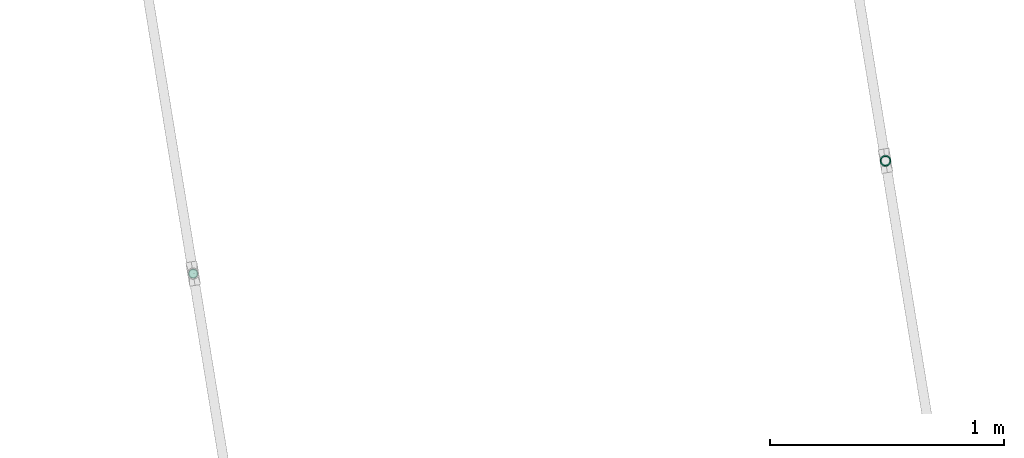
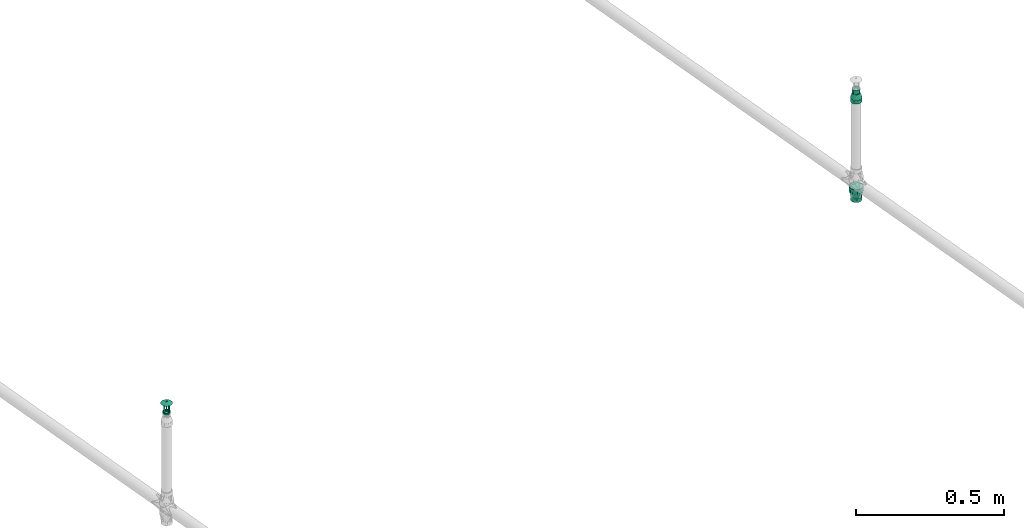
# One storey, part 41 of 56: 2 flow fittings, 1 flow terminal.
"""IFC2X3 building model written with IfcOpenShell, lengths in millimetres."""

import ifcopenshell
import ifcopenshell.guid

model = None  # the IFC model being written
_history = None  # IfcOwnerHistory: only IFC2X3 demands one
_inside = {}  # id of a spatial element -> (the spatial element, [elements in it])
_under = {}  # id of a project, library or spatial element -> (it, [spatial elements below it])
_declared = {}  # id of a project -> (the project, [libraries it declares])
_typed = {}  # id of a type object -> (the type object, [elements of that type])
_made_of = {}  # id of a material, layer set ... -> (it, [elements and type objects made of it])


def new_model(schema):
    """Start an empty IFC model of exactly this schema.

    Asked for "IFC4X3", IfcOpenShell would pick the latest addendum, in which some entities
    have other attributes; the version numbers below select the first issue.
    IFC2X3 requires an IfcOwnerHistory on every rooted entity: one is made here for all.
    """
    global model, _history
    if schema == "IFC4X3":
        model = ifcopenshell.file(schema_version=(4, 3, 0, 0))
    else:
        model = ifcopenshell.file(schema=schema)
    _inside.clear()
    _under.clear()
    _declared.clear()
    _typed.clear()
    _made_of.clear()
    _history = None
    if model.schema == "IFC2X3":
        org = make("IfcOrganization", Name="unknown")
        user = make(
            "IfcPersonAndOrganization",
            ThePerson=make("IfcPerson", FamilyName="unknown"),
            TheOrganization=org,
        )
        app = make(
            "IfcApplication",
            ApplicationDeveloper=org,
            Version="unknown",
            ApplicationFullName="unknown",
            ApplicationIdentifier="unknown",
        )
        _history = make(
            "IfcOwnerHistory",
            OwningUser=user,
            OwningApplication=app,
            ChangeAction="ADDED",
            CreationDate=0,
        )
    return model


def make(cls, **values):
    """One entity of the class cls with the attributes given. An attribute that is None is left unset."""
    return model.create_entity(
        cls, **{name: value for name, value in values.items() if value is not None}
    )


def entity(cls, *values):
    """Any entity or typed value of the class cls, its attributes in the order of the schema. None: left unset."""
    e = model.create_entity(cls)
    for i, value in enumerate(values):
        if value is not None:
            e[i] = value
    return e


def rooted(cls, **values):
    """An entity with a GlobalId (a new one), such as an element, a storey or a relation."""
    return make(cls, GlobalId=ifcopenshell.guid.new(), OwnerHistory=_history, **values)


def si_unit(unit_type, name, prefix=None):
    """IfcSIUnit, for example si_unit("LENGTHUNIT", "METRE", prefix="MILLI")."""
    return make("IfcSIUnit", UnitType=unit_type, Prefix=prefix, Name=name)


def converted_unit(unit_type, name, factor, base, dimensions=None, offset=None):
    """IfcConversionBasedUnit, such as the inch: factor (a typed value) times the base unit."""
    return make(
        "IfcConversionBasedUnit"
        if offset is None
        else "IfcConversionBasedUnitWithOffset",
        ConversionOffset=offset,
        Dimensions=None
        if dimensions is None
        else entity("IfcDimensionalExponents", *dimensions),
        UnitType=unit_type,
        Name=name,
        ConversionFactor=make(
            "IfcMeasureWithUnit", ValueComponent=factor, UnitComponent=base
        ),
    )


def derived_unit(unit_type, elements):
    """IfcDerivedUnit: a product of units, each with its exponent."""
    return make(
        "IfcDerivedUnit",
        Elements=[
            make("IfcDerivedUnitElement", Unit=unit, Exponent=power)
            for unit, power in elements
        ],
        UnitType=unit_type,
    )


def assignment(units):
    """IfcUnitAssignment: the units of a project."""
    return None if units is None else make("IfcUnitAssignment", Units=units)


def point(xyz):
    """IfcCartesianPoint."""
    return None if xyz is None else make("IfcCartesianPoint", Coordinates=xyz)


def direction(xyz):
    """IfcDirection."""
    return None if xyz is None else make("IfcDirection", DirectionRatios=xyz)


def frame(location, z_axis=None, x_axis=None):
    """IfcAxis2Placement3D, a coordinate frame: its origin and axes. An axis left out is left unset."""
    return make(
        "IfcAxis2Placement3D",
        Location=point(location),
        Axis=direction(z_axis),
        RefDirection=direction(x_axis),
    )


def origin():
    """The frame at (0, 0, 0) with its axes left unset."""
    return frame((0.0, 0.0, 0.0))


def origin_with_axes():
    """The frame at (0, 0, 0) with the z axis (0, 0, 1) and the x axis (1, 0, 0) written out."""
    return frame((0.0, 0.0, 0.0), z_axis=(0.0, 0.0, 1.0), x_axis=(1.0, 0.0, 0.0))


def place(relative_to, where):
    """IfcLocalPlacement: puts the frame where relative to a parent placement (None: the world)."""
    return make(
        "IfcLocalPlacement", PlacementRelTo=relative_to, RelativePlacement=where
    )


def context(
    kind, dimensions, precision=None, world=None, true_north=None, identifier=None
):
    """IfcGeometricRepresentationContext, for example the 3D "Model" context."""
    return make(
        "IfcGeometricRepresentationContext",
        ContextIdentifier=identifier,
        ContextType=kind,
        CoordinateSpaceDimension=dimensions,
        Precision=precision,
        WorldCoordinateSystem=world,
        TrueNorth=true_north,
    )


def subcontext(parent, identifier, kind, view, scale=None):
    """IfcGeometricRepresentationSubContext, for example "Body" below "Model"."""
    return make(
        "IfcGeometricRepresentationSubContext",
        ContextIdentifier=identifier,
        ContextType=kind,
        ParentContext=parent,
        TargetScale=scale,
        TargetView=view,
    )


def project(units=None, contexts=None):
    """IfcProject with its units and contexts."""
    return rooted(
        "IfcProject",
        Name="project",
        RepresentationContexts=contexts,
        UnitsInContext=assignment(units),
    )


def spatial(cls, under=None, at=None, **own):
    """A site, building, storey or space (cls), placed at a placement, below another one or the project."""
    s = rooted(cls, ObjectPlacement=at, **own)
    if under is not None:
        _under.setdefault(under.id(), (under, []))[1].append(s)
    return s


def faces_of(points, faces, orient=None, outer=None):
    """IfcFace entities. A face is a list of loops; a loop is a list of indices into points, from 0.

    orient and outer hold one flag for each loop. By default every Orientation is true, the
    first loop of a face is its IfcFaceOuterBound and the others are IfcFaceBound.
    """
    made = []
    for i, loops in enumerate(faces):
        bounds = []
        for j, loop in enumerate(loops):
            is_outer = j == 0 if outer is None else outer[i][j]
            bounds.append(
                make(
                    "IfcFaceOuterBound" if is_outer else "IfcFaceBound",
                    Bound=make("IfcPolyLoop", Polygon=[points[k] for k in loop]),
                    Orientation=True if orient is None else orient[i][j],
                )
            )
        made.append(make("IfcFace", Bounds=bounds))
    return made


def faceted_brep(points, faces, orient=None, outer=None, voids=None):
    """IfcFacetedBrep: a solid bounded by flat faces; with voids (closed shells), ...WithVoids."""
    shared = [point(p) for p in points]
    hull = make("IfcClosedShell", CfsFaces=faces_of(shared, faces, orient, outer))
    if voids is None:
        return make("IfcFacetedBrep", Outer=hull)
    return make(
        "IfcFacetedBrepWithVoids",
        Outer=hull,
        Voids=[
            make(cls, CfsFaces=faces_of(shared, fs, o, b)) for cls, fs, o, b in voids
        ],
    )


def shape(context_of_items, identifier, shape_type, items):
    """IfcShapeRepresentation: the items that make up one representation, for example the "Body"."""
    return make(
        "IfcShapeRepresentation",
        ContextOfItems=context_of_items,
        RepresentationIdentifier=identifier,
        RepresentationType=shape_type,
        Items=items,
    )


def source(mapping_origin, context_of_items, identifier, shape_type, items):
    """IfcRepresentationMap: a shape defined once, which mapped items show again and again."""
    return make(
        "IfcRepresentationMap",
        MappingOrigin=mapping_origin,
        MappedRepresentation=shape(context_of_items, identifier, shape_type, items),
    )


def transform(
    local_origin,
    x_axis=None,
    y_axis=None,
    z_axis=None,
    scale=None,
    scale2=None,
    scale3=None,
    uniform=True,
):
    """IfcCartesianTransformationOperator3D, or its non-uniform kind. x_axis, y_axis, z_axis: its Axis1, 2, 3."""
    if uniform:
        return make(
            "IfcCartesianTransformationOperator3D",
            Axis1=direction(x_axis),
            Axis2=direction(y_axis),
            LocalOrigin=point(local_origin),
            Scale=scale,
            Axis3=direction(z_axis),
        )
    return make(
        "IfcCartesianTransformationOperator3DnonUniform",
        Axis1=direction(x_axis),
        Axis2=direction(y_axis),
        LocalOrigin=point(local_origin),
        Scale=scale,
        Axis3=direction(z_axis),
        Scale2=scale2,
        Scale3=scale3,
    )


def mapped(mapping_source, mapping_target):
    """IfcMappedItem: shows the shape of a source again, moved by a transform."""
    return make(
        "IfcMappedItem", MappingSource=mapping_source, MappingTarget=mapping_target
    )


def material(Name=None, Category=None):
    """IfcMaterial."""
    return make("IfcMaterial", Name=Name, Category=Category)


def made_of(thing, what):
    """Note that an element or type object is made of a material, layer set ...; save() writes the relation."""
    if what is not None:
        _made_of.setdefault(what.id(), (what, []))[1].append(thing)
    return thing


def type_object(cls, material=None, **own):
    """A type object (cls), such as IfcWallType, which elements share."""
    return made_of(rooted(cls, **own), material)


def element(
    cls,
    number,
    at=None,
    inside=None,
    cuts=None,
    type_object=None,
    material=None,
    context=None,
    identifier="Body",
    shape_type=None,
    held_by="IfcProductDefinitionShape",
    body=None,
    shapes=None,
    **own,
):
    """One element of the class cls, such as IfcWall. Its Tag is "e" and its number.

    at: its placement. inside: the storey or other place that contains it. cuts: it is an
    opening in that element (IfcRelVoidsElement). A single representation is given by context,
    identifier, shape_type and body (its items); several are given by shapes. held_by: the class
    of the entity that holds the representations. save() writes the other relations.
    """
    e = rooted(cls, Tag="e%d" % number, ObjectPlacement=at, **own)
    if body is not None:
        shapes = [shape(context, identifier, shape_type, body)]
    if shapes is not None:
        e.Representation = make(held_by, Representations=shapes)
    if inside is not None:
        _inside.setdefault(inside.id(), (inside, []))[1].append(e)
    if cuts is not None:
        rooted(
            "IfcRelVoidsElement", RelatingBuildingElement=cuts, RelatedOpeningElement=e
        )
    if type_object is not None:
        _typed.setdefault(type_object.id(), (type_object, []))[1].append(e)
    return made_of(e, material)


def aggregate(whole, parts):
    """IfcRelAggregates: a whole, such as a stair, and the parts it consists of."""
    return rooted("IfcRelAggregates", RelatingObject=whole, RelatedObjects=parts)


def save(model, path):
    """Write the relations noted so far, then the file.

    IfcRelAggregates (storeys below a building ...), IfcRelContainedInSpatialStructure (elements
    in a storey), IfcRelDefinesByType, IfcRelAssociatesMaterial and IfcRelDeclares: one each for
    every whole, place, type object, material and project.
    """
    for whole, parts in _under.values():
        aggregate(whole, parts)
    for where, things in _inside.values():
        rooted(
            "IfcRelContainedInSpatialStructure",
            RelatedElements=things,
            RelatingStructure=where,
        )
    for kind, things in _typed.values():
        rooted("IfcRelDefinesByType", RelatedObjects=things, RelatingType=kind)
    for what, things in _made_of.values():
        rooted("IfcRelAssociatesMaterial", RelatedObjects=things, RelatingMaterial=what)
    for by, libraries in _declared.values():
        rooted("IfcRelDeclares", RelatingContext=by, RelatedDefinitions=libraries)
    model.write(path)


model = new_model("IFC2X3")

# Units and contexts
model_context = context("Model", 3, precision=0.01, world=origin(), true_north=direction((6.12323399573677e-17, 1.0)))
plan_context = context("Plan", 3, precision=1e-05, world=origin_with_axes())
body_context = subcontext(model_context, "Body", "Model", "MODEL_VIEW")
ifc_project = project(units=[converted_unit("PLANEANGLEUNIT", "DEGREE", entity("IfcPositiveLengthMeasure", 0.0174532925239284), si_unit("PLANEANGLEUNIT", "RADIAN"), dimensions=[0, 0, 0, 0, 0, 0, 0]), si_unit("AREAUNIT", "SQUARE_METRE"), si_unit("LENGTHUNIT", "METRE", prefix="MILLI"), si_unit("MASSUNIT", "GRAM", prefix="KILO"), si_unit("POWERUNIT", "WATT"), si_unit("PRESSUREUNIT", "PASCAL", prefix="KILO"), si_unit("FORCEUNIT", "NEWTON", prefix="KILO"), si_unit("ELECTRICVOLTAGEUNIT", "VOLT"), si_unit("ELECTRICCURRENTUNIT", "AMPERE"), si_unit("THERMODYNAMICTEMPERATUREUNIT", "DEGREE_CELSIUS"), si_unit("TIMEUNIT", "SECOND"), si_unit("VOLUMEUNIT", "CUBIC_METRE"), derived_unit("LINEARVELOCITYUNIT", [(si_unit("LENGTHUNIT", "METRE"), 1), (si_unit("TIMEUNIT", "SECOND"), -1)]), derived_unit("VOLUMETRICFLOWRATEUNIT", [(si_unit("VOLUMEUNIT", "CUBIC_METRE"), 1), (si_unit("TIMEUNIT", "SECOND"), -1)]), derived_unit("THERMALTRANSMITTANCEUNIT", [(si_unit("POWERUNIT", "WATT"), 1), (si_unit("THERMODYNAMICTEMPERATUREUNIT", "KELVIN"), -1), (si_unit("AREAUNIT", "SQUARE_METRE"), -1)]), derived_unit("SOUNDPRESSUREUNIT", [(si_unit("PRESSUREUNIT", "PASCAL"), 1)])], contexts=[model_context, plan_context])

# Site, building, storey
site_placement = place(None, frame((-3.09682673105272e-06, 1.93776733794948e-05, 0.0), z_axis=(0.0, 0.0, 1.0), x_axis=(-0.160806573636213, 0.986985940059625, 0.0)))
site = spatial("IfcSite", under=ifc_project, at=site_placement, Name="Default", CompositionType="ELEMENT")
building_placement = place(site_placement, frame((0.0, 0.0, 0.0), z_axis=(0.0, 0.0, 1.0), x_axis=(1.0, -2.77555756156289e-17, 0.0)))
building = spatial("IfcBuilding", under=site, at=building_placement, Name="Bygning (endres i Project Information)", CompositionType="ELEMENT")
storey_placement = place(building_placement, frame((0.0, 0.0, 51360.0000000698), z_axis=(0.0, 0.0, 1.0), x_axis=(1.0, -2.77555756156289e-17, 0.0)))
storey = spatial("IfcBuildingStorey", under=building, at=storey_placement, Name="H01-Nivå D+0,36", CompositionType="ELEMENT", Elevation=51360.0000000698)

# Flow fittings
ifc_material = material(Name="3320.001")
pipe_fitting_type_1 = type_object("IfcPipeFittingType", Name="RS_53_PIF_UN_Reducing-Socket-EN10241_MC_gen:RS_53_PIF_UN_Reducing-Socket-EN10241_MC_gen", PredefinedType="NOTDEFINED", material=ifc_material)
shared_shape_1 = source(origin(), body_context, "Body", "Brep", [
    faceted_brep([(0.0, 5.11167614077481, 19.0770350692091), (0.0, 9.87500000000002, 17.1040017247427), (0.0, 13.9653589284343, 13.9653589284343), (0.0, 17.1040017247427, 9.87499999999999), (0.0, 19.0770350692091, 5.11167614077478), (0.0, 19.75, 0.0), (0.0, 19.0770350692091, -5.1116761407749), (0.0, 17.1040017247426, -9.8750000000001), (0.0, 13.9653589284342, -13.9653589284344), (0.0, 9.87499999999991, -17.1040017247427), (0.0, 5.11167614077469, -19.0770350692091), (0.0, 0.0, -19.75), (0.0, -5.11167614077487, -19.0770350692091), (0.0, -9.87500000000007, -17.1040017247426), (0.0, -13.9653589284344, -13.9653589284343), (0.0, -17.1040017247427, -9.87499999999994), (0.0, -19.0770350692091, -5.11167614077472), (0.0, -19.75, 0.0), (0.0, -19.0770350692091, 5.11167614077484), (0.0, -17.1040017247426, 9.87500000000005), (0.0, -13.9653589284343, 13.9653589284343), (0.0, -9.87499999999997, 17.1040017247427), (0.0, -5.11167614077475, 19.0770350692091), (0.0, 0.0, 19.75), (17.0, -6.65118285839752, -18.277344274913), (17.0, -15.1289479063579, -12.6955675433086), (17.0, -16.8438814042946, -9.72538978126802), (17.0, -18.5588149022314, -6.7552120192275), (17.0, -9.87413131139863, -17.1045032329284), (17.0, -12.5015396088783, -14.9000353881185), (17.0, -19.1544074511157, -3.37760600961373), (17.0, -3.42823440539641, -19.4501853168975), (17.0, 3.43119786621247, -19.4496627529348), (17.0, 0.0014817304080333, -19.4499240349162), (17.0, -19.75, 0.0), (17.0, 6.65396758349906, -18.2763306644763), (17.0, 9.87673730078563, -17.1029985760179), (17.0, 18.5598439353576, -6.75238425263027), (17.0, 16.8453630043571, -9.7228232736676), (17.0, 15.1308820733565, -12.6932622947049), (17.0, 12.5038096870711, -14.8981304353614), (17.0, 19.75, 0.0), (17.0, 15.1308820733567, 12.6932622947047), (17.0, 16.8453630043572, 9.72282327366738), (17.0, 18.5598439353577, 6.75238425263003), (17.0, 9.87673730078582, 17.1029985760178), (17.0, 12.5038096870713, 14.8981304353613), (17.0, 3.43119786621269, 19.4496627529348), (17.0, 6.65396758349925, 18.2763306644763), (17.0, -3.4282344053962, 19.4501853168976), (17.0, 0.00148173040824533, 19.4499240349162), (17.0, -15.1289479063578, 12.6955675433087), (17.0, -6.65118285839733, 18.277344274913), (17.0, -9.87413131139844, 17.1045032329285), (17.0, -12.5015396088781, 14.9000353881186), (17.0, -19.1544074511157, 3.37760600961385), (17.0, -18.5588149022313, 6.75521201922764), (17.0, -16.8438814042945, 9.72538978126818), (34.0, 13.5000000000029, 0.0), (34.0, 12.6868795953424, -4.61444320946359), (34.0, -4.54589529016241, -12.4935366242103), (34.0, -2.34276817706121, -13.2951659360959), (34.0, 6.75195505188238, -11.6902139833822), (34.0, 0.00166747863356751, -13.2948718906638), (34.0, 2.34610313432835, -13.2945778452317), (34.0, 10.3432928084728, -8.67561489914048), (34.0, 8.54762393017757, -10.1829144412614), (34.0, 4.54902909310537, -12.492395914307), (34.0, 11.5150862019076, -6.64502905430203), (34.0, -6.74902240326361, -11.6919073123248), (34.0, -13.4999999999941, 0.0), (34.0, -13.0928608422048, -2.30881275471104), (34.0, -10.3411162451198, -8.6782091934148), (34.0, -8.54506932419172, -10.1850582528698), (34.0, -12.6857216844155, -4.61762550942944), (34.0, -11.5134189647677, -6.64791735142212), (34.0, -13.0928608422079, 2.30881275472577), (34.0, -12.6857216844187, 4.6176255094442), (34.0, 2.34610313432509, 13.2945778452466), (34.0, 4.54902909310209, 12.4923959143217), (34.0, -10.3411162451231, 8.67820919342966), (34.0, 0.00166747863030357, 13.2948718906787), (34.0, -6.74902240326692, 11.6919073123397), (34.0, -8.54506932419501, 10.1850582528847), (34.0, -11.5134189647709, 6.64791735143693), (34.0, -2.34276817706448, 13.2951659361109), (34.0, -4.5458952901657, 12.4935366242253), (34.0, 12.6868795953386, 4.61444320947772), (34.0, 11.5150862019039, 6.64502905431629), (34.0, 10.3432928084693, 8.67561489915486), (34.0, 6.7519550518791, 11.6902139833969), (34.0, 8.54762393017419, 10.1829144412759), (51.0, 3.49405710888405, -13.0399986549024), (51.0, 6.75000000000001, -11.6913429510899), (51.0, 9.5459415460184, -9.54594154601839), (51.0, 11.6913429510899, -6.74999999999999), (51.0, 13.0399986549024, -3.49405710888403), (51.0, 13.5, 0.0), (51.0, 13.0399986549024, 3.49405710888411), (51.0, 11.6913429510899, 6.75000000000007), (51.0, 9.54594154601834, 9.54594154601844), (51.0, 6.74999999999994, 11.69134295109), (51.0, 3.49405710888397, 13.0399986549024), (51.0, 0.0, 13.5), (51.0, -3.49405710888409, 13.0399986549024), (51.0, -6.75000000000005, 11.6913429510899), (51.0, -9.54594154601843, 9.54594154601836), (51.0, -11.6913429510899, 6.74999999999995), (51.0, -13.0399986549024, 3.49405710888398), (51.0, -13.5, 0.0), (51.0, -13.0399986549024, -3.49405710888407), (51.0, -11.6913429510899, -6.75000000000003), (51.0, -9.54594154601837, -9.54594154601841), (51.0, -6.74999999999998, -11.6913429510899), (51.0, -3.49405710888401, -13.0399986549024), (51.0, 0.0, -13.5)], [[[0, 1, 2, 3, 4, 5, 6, 7, 8, 9, 10, 11, 12, 13, 14, 15, 16, 17, 18, 19, 20, 21, 22, 23]], [[24, 13, 12]], [[15, 14, 25]], [[15, 25, 26, 27]], [[28, 29, 13]], [[16, 27, 30]], [[30, 17, 16]], [[15, 27, 16]], [[12, 31, 24]], [[25, 14, 29]], [[11, 32, 33, 31]], [[24, 28, 13]], [[13, 29, 14]], [[30, 34, 17]], [[32, 11, 10]], [[35, 9, 36]], [[7, 37, 38, 39]], [[9, 35, 10]], [[7, 6, 37]], [[8, 39, 40]], [[32, 10, 35]], [[7, 39, 8]], [[40, 36, 9]], [[6, 41, 37]], [[6, 5, 41]], [[11, 31, 12]], [[40, 9, 8]], [[41, 5, 4]], [[3, 2, 42]], [[3, 42, 43, 44]], [[45, 46, 1]], [[44, 41, 4]], [[0, 47, 48]], [[42, 2, 46]], [[23, 49, 50, 47]], [[1, 46, 2]], [[49, 23, 22]], [[19, 51, 20]], [[52, 21, 53]], [[3, 44, 4]], [[48, 45, 1]], [[54, 53, 21]], [[17, 34, 55]], [[21, 52, 22]], [[20, 51, 54]], [[49, 22, 52]], [[48, 1, 0]], [[17, 55, 18]], [[56, 19, 18]], [[18, 55, 56]], [[54, 21, 20]], [[57, 51, 19, 56]], [[23, 47, 0]], [[41, 58, 59]], [[60, 31, 61]], [[40, 62, 36]], [[63, 32, 64]], [[65, 39, 38]], [[64, 32, 35]], [[61, 33, 63]], [[37, 41, 59]], [[62, 40, 66]], [[40, 39, 66]], [[35, 36, 67]], [[65, 38, 68]], [[37, 68, 38]], [[64, 35, 67]], [[61, 31, 33]], [[69, 28, 24]], [[69, 24, 60]], [[70, 30, 71]], [[72, 29, 73]], [[30, 70, 34]], [[74, 27, 26]], [[68, 37, 59]], [[72, 25, 29]], [[27, 74, 71]], [[31, 60, 24]], [[29, 28, 73]], [[75, 26, 25]], [[67, 36, 62]], [[66, 39, 65]], [[27, 71, 30]], [[74, 26, 75]], [[73, 28, 69]], [[63, 33, 32]], [[75, 25, 72]], [[56, 76, 77]], [[48, 78, 79]], [[54, 51, 80]], [[81, 47, 50]], [[57, 56, 77]], [[52, 53, 82]], [[82, 53, 83]], [[55, 70, 76]], [[70, 55, 34]], [[84, 51, 57]], [[50, 85, 81]], [[56, 55, 76]], [[86, 49, 52]], [[83, 53, 54]], [[81, 78, 47]], [[48, 47, 78]], [[80, 51, 84]], [[49, 85, 50]], [[87, 44, 88]], [[87, 58, 41]], [[43, 42, 89]], [[57, 77, 84]], [[46, 45, 90]], [[85, 49, 86]], [[88, 44, 43]], [[54, 80, 83]], [[91, 42, 46]], [[52, 82, 86]], [[89, 42, 91]], [[87, 41, 44]], [[90, 45, 79]], [[46, 90, 91]], [[79, 45, 48]], [[43, 89, 88]], [[92, 93, 94, 95, 96, 97, 98, 99, 100, 101, 102, 103, 104, 105, 106, 107, 108, 109, 110, 111, 112, 113, 114, 115]], [[58, 97, 96]], [[95, 94, 65]], [[95, 65, 68, 59]], [[62, 66, 93]], [[59, 58, 96]], [[92, 64, 67]], [[65, 94, 66]], [[115, 61, 63, 64]], [[93, 66, 94]], [[67, 93, 92]], [[67, 62, 93]], [[95, 59, 96]], [[114, 61, 115]], [[111, 110, 74]], [[73, 113, 112]], [[109, 71, 110]], [[111, 74, 75, 72]], [[109, 70, 71]], [[60, 61, 114]], [[113, 69, 60]], [[111, 72, 112]], [[113, 60, 114]], [[112, 72, 73]], [[115, 64, 92]], [[71, 74, 110]], [[73, 69, 113]], [[86, 105, 104]], [[107, 106, 80]], [[107, 80, 84, 77]], [[82, 83, 105]], [[108, 77, 76]], [[76, 70, 109]], [[76, 109, 108]], [[104, 85, 86]], [[80, 106, 83]], [[103, 78, 81, 85]], [[91, 101, 100]], [[105, 83, 106]], [[86, 82, 105]], [[78, 103, 102]], [[79, 101, 90]], [[99, 87, 88, 89]], [[101, 79, 102]], [[99, 98, 87]], [[100, 89, 91]], [[78, 102, 79]], [[103, 85, 104]], [[99, 89, 100]], [[98, 58, 87]], [[107, 77, 108]], [[98, 97, 58]], [[91, 90, 101]]]),
])
flow_fitting_1_placement = place(storey_placement, frame((997236.26325463, -395286.663841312, 3707.99999993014), z_axis=(2.77555756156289e-17, 1.0, 0.0), x_axis=(0.0, 0.0, 1.0)))
element("IfcFlowFitting", 1, at=flow_fitting_1_placement, inside=storey, type_object=pipe_fitting_type_1, material=ifc_material, Name="RS_53_PIF_UN_Reducing-Socket-EN10241_MC_gen:RS_53_PIF_UN_Reducing-Socket-EN10241_MC_gen", ObjectType="RS_53_PIF_UN_Reducing-Socket-EN10241_MC_gen:RS_53_PIF_UN_Reducing-Socket-EN10241_MC_gen", context=body_context, shape_type="MappedRepresentation", body=[
    mapped(shared_shape_1, transform((0.0, 0.0, 0.0), scale=1.0)),
])
pipe_fitting_type_2 = type_object("IfcPipeFittingType", Name="RS_53_PIF_UN_Reducing-Socket-EN10241_MC_gen:RS_53_PIF_UN_Reducing-Socket-EN10241_MC_gen", PredefinedType="NOTDEFINED", material=ifc_material)
shared_shape_2 = source(origin(), body_context, "Body", "Brep", [
    faceted_brep([(0.0, -12.25, 21.2176223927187), (0.0, -6.34106660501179, 23.6651827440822), (0.0, 0.0, 24.5), (0.0, 6.34106660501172, 23.6651827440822), (0.0, 12.25, 21.2176223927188), (0.0, 17.3241161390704, 17.3241161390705), (0.0, 21.2176223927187, 12.2500000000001), (0.0, 23.6651827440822, 6.34106660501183), (0.0, 24.5, 0.0), (0.0, 23.6651827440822, -6.34106660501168), (0.0, 21.2176223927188, -12.2499999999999), (0.0, 17.3241161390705, -17.3241161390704), (0.0, 12.2500000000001, -21.2176223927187), (0.0, 6.34106660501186, -23.6651827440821), (0.0, 0.0, -24.5), (0.0, -6.34106660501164, -23.6651827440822), (0.0, -12.2499999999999, -21.2176223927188), (0.0, -17.3241161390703, -17.3241161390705), (0.0, -21.2176223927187, -12.2500000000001), (0.0, -23.6651827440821, -6.34106660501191), (0.0, -24.5, 0.0), (0.0, -23.6651827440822, 6.34106660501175), (0.0, -21.2176223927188, 12.25), (0.0, -17.3241161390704, 17.3241161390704), (18.6666666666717, 8.25137606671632, -22.6729794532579), (18.6666666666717, 18.7677686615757, -15.7486780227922), (18.6666666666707, 20.8950763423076, -12.0642027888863), (18.6666666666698, 23.0223840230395, -8.37972755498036), (18.6666666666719, 15.5085607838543, -18.4833370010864), (18.6666666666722, 12.2493529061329, -21.2179959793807), (18.6666666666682, 23.7611920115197, -4.18986377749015), (18.6666666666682, 23.7125607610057, -4.46565710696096), (18.6666666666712, 4.25339922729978, -24.1279629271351), (18.6666666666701, -0.00110376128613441, -24.1277682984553), (18.6666666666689, -4.25560674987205, -24.1275736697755), (18.6666666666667, 24.5, 0.0), (18.6666666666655, -12.2512941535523, -21.2168751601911), (18.6666666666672, -8.25345045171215, -22.6722244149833), (18.6666666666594, -20.8961800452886, -12.062290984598), (18.6666666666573, -23.0231506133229, -8.37762113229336), (18.6666666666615, -18.7692094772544, -15.7469608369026), (18.6666666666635, -15.5102518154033, -18.4819179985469), (18.6666666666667, -24.5, 0.0), (18.6666666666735, -18.7692094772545, 15.7469608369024), (18.666666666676, -20.8961800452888, 12.0622909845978), (18.6666666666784, -23.023150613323, 8.3776211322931), (18.6666666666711, -15.5102518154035, 18.4819179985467), (18.6666666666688, -12.2512941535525, 21.216875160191), (18.6666666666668, -8.25345045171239, 22.6722244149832), (18.6666666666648, -4.25560674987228, 24.1275736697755), (18.6666666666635, -0.00110376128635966, 24.1277682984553), (18.6666666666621, 4.25339922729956, 24.1279629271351), (18.6666666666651, 23.7611920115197, 4.1898637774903), (18.666666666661, 12.2493529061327, 21.2179959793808), (18.6666666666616, 8.25137606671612, 22.672979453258), (18.6666666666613, 15.5085607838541, 18.4833370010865), (18.6666666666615, 18.7677686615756, 15.7486780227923), (18.6666666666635, 23.0223840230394, 8.37972755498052), (18.6666666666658, 23.7125607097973, 4.46565739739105), (18.6666666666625, 20.8950763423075, 12.0642027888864), (37.3333333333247, -18.5595959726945, -6.75306577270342), (37.3333333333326, -19.750000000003, 0.0), (37.3333333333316, -9.87626627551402, -17.1032705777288), (37.3333333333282, -15.1304742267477, -12.6937484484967), (37.3333333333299, -12.5033702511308, -14.8985095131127), (37.3333333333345, -3.43075149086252, -19.4497414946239), (37.333333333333, -6.65350888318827, -18.2765060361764), (37.3333333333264, -16.8450350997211, -9.72340711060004), (37.3333333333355, -0.00107998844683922, -19.4499319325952), (37.3333333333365, 3.42859151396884, -19.4501223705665), (37.3333333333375, 9.87436684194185, -17.1043672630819), (37.333333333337, 6.65147917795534, -18.2772448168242), (37.3333333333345, 19.1544229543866, -3.37756341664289), (37.3333333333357, 18.558845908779, -6.75512683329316), (37.3333333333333, 19.7499999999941, 0.0), (37.3333333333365, 16.8439551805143, -9.72527774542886), (37.3333333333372, 15.1290644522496, -12.6954286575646), (37.3333333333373, 12.5017156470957, -14.8998979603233), (37.3333333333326, 19.1544229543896, 3.37756341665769), (37.3333333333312, 18.5588459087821, 6.755126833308), (37.3333333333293, 15.1290644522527, 12.6954286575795), (37.3333333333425, -16.8450350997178, 9.72340711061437), (37.3333333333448, -18.559595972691, 6.75306577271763), (37.3333333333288, 9.87436684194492, 17.104367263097), (37.3333333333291, 12.5017156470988, 14.8998979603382), (37.3333333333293, 6.65147917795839, 18.2772448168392), (37.3333333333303, 16.8439551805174, 9.72527774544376), (37.3333333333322, -3.43075149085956, 19.4497414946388), (37.333333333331, -0.00107998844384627, 19.4499319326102), (37.3333333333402, -15.1304742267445, 12.6937484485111), (37.333333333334, -6.65350888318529, 18.2765060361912), (37.3333333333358, -9.87626627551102, 17.1032705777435), (37.333333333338, -12.5033702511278, 14.8985095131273), (37.3333333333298, 3.42859151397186, 19.4501223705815), (56.0, 0.0, -19.75), (56.0, 5.11167614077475, -19.0770350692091), (56.0, 9.87499999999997, -17.1040017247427), (56.0, 13.9653589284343, -13.9653589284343), (56.0, 17.1040017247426, -9.87500000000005), (56.0, 19.0770350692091, -5.11167614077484), (56.0, 19.75, 0.0), (56.0, 19.0770350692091, 5.11167614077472), (56.0, 17.1040017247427, 9.87499999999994), (56.0, 13.9653589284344, 13.9653589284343), (56.0, 9.87500000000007, 17.1040017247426), (56.0, 5.11167614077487, 19.0770350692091), (56.0, 0.0, 19.75), (56.0, -5.11167614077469, 19.0770350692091), (56.0, -9.87499999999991, 17.1040017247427), (56.0, -13.9653589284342, 13.9653589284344), (56.0, -17.1040017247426, 9.8750000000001), (56.0, -19.0770350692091, 5.1116761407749), (56.0, -19.75, 0.0), (56.0, -19.0770350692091, -5.11167614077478), (56.0, -17.1040017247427, -9.87499999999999), (56.0, -13.9653589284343, -13.9653589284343), (56.0, -9.87500000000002, -17.1040017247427), (56.0, -5.11167614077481, -19.0770350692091)], [[[0, 1, 2, 3, 4, 5, 6, 7, 8, 9, 10, 11, 12, 13, 14, 15, 16, 17, 18, 19, 20, 21, 22, 23]], [[13, 12, 24]], [[25, 11, 10]], [[26, 25, 10, 27]], [[12, 28, 29]], [[9, 30, 31, 27]], [[9, 8, 30]], [[9, 27, 10]], [[24, 32, 13]], [[28, 11, 25]], [[33, 34, 14, 32]], [[12, 29, 24]], [[11, 28, 12]], [[8, 35, 30]], [[15, 14, 34]], [[36, 16, 37]], [[38, 39, 18, 40]], [[15, 37, 16]], [[39, 19, 18]], [[41, 40, 17]], [[37, 15, 34]], [[17, 40, 18]], [[16, 36, 41]], [[39, 42, 19]], [[42, 20, 19]], [[13, 32, 14]], [[17, 16, 41]], [[21, 20, 42]], [[43, 23, 22]], [[44, 43, 22, 45]], [[0, 46, 47]], [[21, 42, 45]], [[48, 49, 1]], [[46, 23, 43]], [[50, 51, 2, 49]], [[23, 46, 0]], [[3, 2, 51]], [[1, 49, 2]], [[7, 52, 8]], [[53, 4, 54]], [[1, 0, 48]], [[5, 4, 55]], [[8, 52, 35]], [[21, 45, 22]], [[3, 54, 4]], [[55, 56, 5]], [[54, 3, 51]], [[0, 47, 48]], [[5, 56, 6]], [[7, 6, 57]], [[7, 57, 58, 52]], [[4, 53, 55]], [[6, 56, 59, 57]], [[60, 61, 42]], [[36, 62, 41]], [[63, 40, 64]], [[63, 38, 40]], [[65, 37, 34]], [[66, 37, 65]], [[60, 42, 39]], [[67, 38, 63]], [[64, 40, 41]], [[66, 36, 37]], [[64, 41, 62]], [[38, 67, 39]], [[68, 33, 69]], [[33, 32, 69]], [[29, 70, 24]], [[71, 69, 32]], [[72, 31, 30, 35]], [[26, 27, 73]], [[35, 74, 72]], [[73, 75, 26]], [[28, 25, 76]], [[76, 77, 28]], [[71, 24, 70]], [[71, 32, 24]], [[29, 77, 70]], [[25, 75, 76]], [[28, 77, 29]], [[26, 75, 25]], [[27, 31, 73]], [[72, 73, 31]], [[62, 36, 66]], [[34, 33, 68]], [[65, 34, 68]], [[60, 39, 67]], [[78, 58, 79]], [[56, 55, 80]], [[81, 45, 82]], [[57, 59, 79]], [[53, 54, 83]], [[84, 80, 55]], [[78, 35, 52, 58]], [[58, 57, 79]], [[55, 53, 84]], [[54, 51, 85]], [[74, 35, 78]], [[59, 56, 86]], [[53, 83, 84]], [[87, 88, 49]], [[87, 49, 48]], [[86, 79, 59]], [[85, 83, 54]], [[50, 49, 88]], [[42, 61, 82]], [[89, 43, 44]], [[48, 47, 90]], [[91, 47, 46]], [[56, 80, 86]], [[44, 45, 81]], [[90, 87, 48]], [[46, 43, 92]], [[90, 47, 91]], [[93, 51, 50]], [[82, 45, 42]], [[51, 93, 85]], [[81, 89, 44]], [[88, 93, 50]], [[92, 91, 46]], [[92, 43, 89]], [[94, 95, 96, 97, 98, 99, 100, 101, 102, 103, 104, 105, 106, 107, 108, 109, 110, 111, 112, 113, 114, 115, 116, 117]], [[113, 112, 61]], [[63, 115, 114]], [[67, 63, 114, 60]], [[116, 64, 62]], [[113, 61, 60]], [[66, 65, 117]], [[64, 115, 63]], [[68, 69, 94, 65]], [[115, 64, 116]], [[69, 95, 94]], [[96, 70, 77]], [[117, 116, 66]], [[71, 70, 96]], [[73, 99, 98]], [[95, 71, 96]], [[117, 65, 94]], [[113, 60, 114]], [[74, 100, 72]], [[95, 69, 71]], [[97, 76, 98]], [[77, 76, 97]], [[97, 96, 77]], [[75, 73, 98, 76]], [[99, 72, 100]], [[116, 62, 66]], [[99, 73, 72]], [[105, 104, 85]], [[80, 103, 102]], [[86, 80, 102, 79]], [[104, 84, 83]], [[78, 79, 101]], [[101, 100, 78]], [[101, 79, 102]], [[85, 93, 105]], [[84, 103, 80]], [[88, 87, 106, 93]], [[104, 83, 85]], [[103, 84, 104]], [[100, 74, 78]], [[107, 106, 87]], [[91, 108, 90]], [[81, 82, 110, 89]], [[107, 90, 108]], [[82, 111, 110]], [[92, 89, 109]], [[90, 107, 87]], [[109, 89, 110]], [[108, 91, 92]], [[82, 61, 111]], [[61, 112, 111]], [[105, 93, 106]], [[109, 108, 92]]]),
])
flow_fitting_2_placement = place(storey_placement, frame((997236.26325463, -395286.663841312, 3359.06666666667), z_axis=(1.0, -2.77555756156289e-17, 0.0), x_axis=(0.0, 0.0, -1.0)))
element("IfcFlowFitting", 2, at=flow_fitting_2_placement, inside=storey, type_object=pipe_fitting_type_2, material=ifc_material, Name="RS_53_PIF_UN_Reducing-Socket-EN10241_MC_gen:RS_53_PIF_UN_Reducing-Socket-EN10241_MC_gen", ObjectType="RS_53_PIF_UN_Reducing-Socket-EN10241_MC_gen:RS_53_PIF_UN_Reducing-Socket-EN10241_MC_gen", context=body_context, shape_type="MappedRepresentation", body=[
    mapped(shared_shape_2, transform((0.0, 0.0, 0.0), scale=1.0)),
])

# Flow terminal
fire_suppression_terminal_type = type_object("IfcFireSuppressionTerminalType", Name="SU-15-K80-68DGR-STD:SU-15-K80-68DGR-STD", PredefinedType="NOTDEFINED", material=ifc_material)
shared_shape_3 = source(origin(), body_context, "Body", "Brep", [
    faceted_brep([(-2.5, 0.0, 62.0), (0.0, -2.5, 62.0), (2.5, 0.0, 62.0), (0.0, 2.5, 62.0), (-2.5, 0.0, 59.0), (0.0, 2.5, 59.0), (2.5, 0.0, 59.0), (0.0, -2.5, 59.0)], [[[0, 1, 2, 3]], [[4, 5, 6, 7]], [[0, 4, 7, 1]], [[7, 6, 2, 1]], [[2, 6, 5, 3]], [[5, 4, 0, 3]]]),
    faceted_brep([(1.0, -13.5, 47.0), (1.0, -13.5, 19.0), (1.0, -8.5, 19.0), (1.0, -8.5, 42.0), (1.0, 8.5, 42.0), (1.0, 8.5, 19.0), (1.0, 13.5, 19.0), (1.0, 13.5, 47.0), (-1.0, -13.5, 47.0), (-1.0, 13.5, 47.0), (-1.0, 13.5, 19.0), (-1.0, 8.5, 19.0), (-1.0, 8.5, 42.0), (-1.0, -8.5, 42.0), (-1.0, -8.5, 19.0), (-1.0, -13.5, 19.0)], [[[0, 1, 2, 3, 4, 5, 6, 7]], [[8, 9, 10, 11, 12, 13, 14, 15]], [[1, 0, 8, 15]], [[2, 1, 15, 14]], [[3, 2, 14, 13]], [[4, 3, 13, 12]], [[5, 4, 12, 11]], [[6, 5, 11, 10]], [[7, 6, 10, 9]], [[0, 7, 9, 8]]]),
    faceted_brep([(-13.5, 1.0, 47.0), (13.5, 1.0, 47.0), (13.5, 1.0, 19.0), (8.5, 1.0, 19.0), (8.5, 1.0, 42.0), (-8.5, 1.0, 42.0), (-8.5, 1.0, 19.0), (-13.5, 1.0, 19.0), (-13.5, -1.0, 47.0), (-13.5, -1.0, 19.0), (-8.5, -1.0, 19.0), (-8.5, -1.0, 42.0), (8.5, -1.0, 42.0), (8.5, -1.0, 19.0), (13.5, -1.0, 19.0), (13.5, -1.0, 47.0)], [[[0, 1, 2, 3, 4, 5, 6, 7]], [[8, 9, 10, 11, 12, 13, 14, 15]], [[1, 0, 8, 15]], [[2, 1, 15, 14]], [[3, 2, 14, 13]], [[4, 3, 13, 12]], [[5, 4, 12, 11]], [[6, 5, 11, 10]], [[7, 6, 10, 9]], [[0, 7, 9, 8]]]),
    faceted_brep([(0.0, 2.5, 59.0), (-2.5, 0.0, 59.0), (0.0, -2.5, 59.0), (2.5, 0.0, 59.0), (6.4893568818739, 19.9721868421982, 53.0), (16.9893568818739, 12.3434902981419, 53.0), (21.0, 0.0, 53.0), (16.989356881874, -12.3434902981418, 53.0), (6.48935688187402, -19.9721868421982, 53.0), (-6.48935688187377, -19.9721868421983, 53.0), (-16.9893568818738, -12.343490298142, 53.0), (-21.0, 0.0, 53.0), (-16.9893568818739, 12.3434902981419, 53.0), (-6.48935688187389, 19.9721868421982, 53.0)], [[[0, 1, 2, 3]], [[4, 5, 6, 7, 8, 9, 10, 11, 12, 13]], [[6, 3, 7]], [[2, 8, 7]], [[7, 3, 2]], [[2, 1, 10]], [[2, 10, 9]], [[10, 1, 11]], [[2, 9, 8]], [[11, 1, 12]], [[0, 13, 12]], [[12, 1, 0]], [[0, 3, 5]], [[0, 5, 4]], [[5, 3, 6]], [[0, 4, 13]]]),
    faceted_brep([(-2.5, 0.0, 53.0), (0.0, -2.5, 53.0), (2.5, 0.0, 53.0), (0.0, 2.5, 53.0), (-2.5, 0.0, 19.0), (0.0, 2.5, 19.0), (2.5, 0.0, 19.0), (0.0, -2.5, 19.0)], [[[0, 1, 2, 3]], [[4, 5, 6, 7]], [[0, 4, 7, 1]], [[7, 6, 2, 1]], [[2, 6, 5, 3]], [[5, 4, 0, 3]]]),
    faceted_brep([(3.62346663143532, -13.5229615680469, 19.0), (7.0, -12.1243556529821, 19.0), (9.89949493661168, -9.89949493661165, 19.0), (12.1243556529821, -7.0, 19.0), (13.522961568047, -3.62346663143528, 19.0), (14.0, 0.0, 19.0), (13.522961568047, 3.62346663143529, 19.0), (12.1243556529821, 7.0, 19.0), (9.89949493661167, 9.89949493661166, 19.0), (7.0, 12.1243556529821, 19.0), (3.62346663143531, 13.522961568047, 19.0), (0.0, 14.0, 19.0), (-3.62346663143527, 13.522961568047, 19.0), (-7.0, 12.1243556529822, 19.0), (-9.89949493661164, 9.89949493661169, 19.0), (-12.1243556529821, 7.0, 19.0), (-13.5229615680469, 3.62346663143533, 19.0), (-14.0, 0.0, 19.0), (-13.5229615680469, -3.62346663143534, 19.0), (-12.1243556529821, -7.0, 19.0), (-9.89949493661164, -9.89949493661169, 19.0), (-7.0, -12.1243556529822, 19.0), (-3.62346663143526, -13.522961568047, 19.0), (0.0, -14.0, 19.0), (9.89949493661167, 9.89949493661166, 13.0), (12.1243556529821, 7.0, 13.0), (13.522961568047, 3.62346663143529, 13.0), (14.0, 0.0, 13.0), (13.522961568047, -3.62346663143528, 13.0), (12.1243556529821, -7.0, 13.0), (9.89949493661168, -9.89949493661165, 13.0), (7.0, -12.1243556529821, 13.0), (3.62346663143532, -13.5229615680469, 13.0), (0.0, -14.0, 13.0), (-3.62346663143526, -13.522961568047, 13.0), (-7.0, -12.1243556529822, 13.0), (-9.89949493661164, -9.89949493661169, 13.0), (-12.1243556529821, -7.0, 13.0), (-13.5229615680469, -3.62346663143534, 13.0), (-14.0, 0.0, 13.0), (-13.5229615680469, 3.62346663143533, 13.0), (-12.1243556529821, 7.0, 13.0), (-9.89949493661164, 9.89949493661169, 13.0), (-7.0, 12.1243556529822, 13.0), (-3.62346663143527, 13.522961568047, 13.0), (0.0, 14.0, 13.0), (3.62346663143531, 13.522961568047, 13.0), (7.0, 12.1243556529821, 13.0)], [[[0, 1, 2, 3, 4, 5, 6, 7, 8, 9, 10, 11, 12, 13, 14, 15, 16, 17, 18, 19, 20, 21, 22, 23]], [[24, 25, 26, 27, 28, 29, 30, 31, 32, 33, 34, 35, 36, 37, 38, 39, 40, 41, 42, 43, 44, 45, 46, 47]], [[38, 18, 17, 39]], [[37, 19, 18, 38]], [[21, 20, 36, 35]], [[37, 36, 20, 19]], [[22, 21, 35, 34]], [[23, 22, 34, 33]], [[32, 0, 23, 33]], [[31, 1, 0, 32]], [[3, 2, 30, 29]], [[31, 30, 2, 1]], [[4, 3, 29, 28]], [[5, 4, 28, 27]], [[26, 6, 5, 27]], [[25, 7, 6, 26]], [[9, 8, 24, 47]], [[25, 24, 8, 7]], [[10, 9, 47, 46]], [[11, 10, 46, 45]], [[44, 12, 11, 45]], [[43, 13, 12, 44]], [[15, 14, 42, 41]], [[43, 42, 14, 13]], [[16, 15, 41, 40]], [[17, 16, 40, 39]]]),
    faceted_brep([(1.94114283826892, -7.24444369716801, 13.0), (3.75000000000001, -6.49519052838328, 13.0), (5.30330085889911, -5.3033008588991, 13.0), (6.49519052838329, -3.75, 13.0), (7.24444369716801, -1.9411428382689, 13.0), (7.5, 0.0, 13.0), (7.24444369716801, 1.9411428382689, 13.0), (6.49519052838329, 3.75, 13.0), (5.30330085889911, 5.3033008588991, 13.0), (3.75000000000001, 6.49519052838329, 13.0), (1.94114283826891, 7.24444369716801, 13.0), (0.0, 7.5, 13.0), (-1.94114283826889, 7.24444369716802, 13.0), (-3.74999999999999, 6.4951905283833, 13.0), (-5.3033008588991, 5.30330085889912, 13.0), (-6.49519052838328, 3.75000000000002, 13.0), (-7.24444369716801, 1.94114283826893, 13.0), (-7.5, 0.0, 13.0), (-7.244443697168, -1.94114283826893, 13.0), (-6.49519052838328, -3.75000000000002, 13.0), (-5.30330085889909, -5.30330085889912, 13.0), (-3.74999999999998, -6.4951905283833, 13.0), (-1.94114283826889, -7.24444369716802, 13.0), (0.0, -7.5, 13.0), (5.30330085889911, 5.3033008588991, 0.0), (6.49519052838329, 3.75, 0.0), (7.24444369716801, 1.9411428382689, 0.0), (7.5, 0.0, 0.0), (7.24444369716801, -1.9411428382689, 0.0), (6.49519052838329, -3.75, 0.0), (5.30330085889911, -5.3033008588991, 0.0), (3.75000000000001, -6.49519052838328, 0.0), (1.94114283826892, -7.24444369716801, 0.0), (0.0, -7.5, 0.0), (-1.94114283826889, -7.24444369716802, 0.0), (-3.74999999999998, -6.4951905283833, 0.0), (-5.30330085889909, -5.30330085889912, 0.0), (-6.49519052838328, -3.75000000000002, 0.0), (-7.244443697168, -1.94114283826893, 0.0), (-7.5, 0.0, 0.0), (-7.24444369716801, 1.94114283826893, 0.0), (-6.49519052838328, 3.75000000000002, 0.0), (-5.3033008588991, 5.30330085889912, 0.0), (-3.74999999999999, 6.4951905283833, 0.0), (-1.94114283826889, 7.24444369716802, 0.0), (0.0, 7.5, 0.0), (1.94114283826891, 7.24444369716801, 0.0), (3.75000000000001, 6.49519052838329, 0.0)], [[[0, 1, 2, 3, 4, 5, 6, 7, 8, 9, 10, 11, 12, 13, 14, 15, 16, 17, 18, 19, 20, 21, 22, 23]], [[24, 25, 26, 27, 28, 29, 30, 31, 32, 33, 34, 35, 36, 37, 38, 39, 40, 41, 42, 43, 44, 45, 46, 47]], [[38, 18, 17, 39]], [[37, 19, 18, 38]], [[21, 20, 36, 35]], [[37, 36, 20, 19]], [[22, 21, 35, 34]], [[23, 22, 34, 33]], [[32, 0, 23, 33]], [[31, 1, 0, 32]], [[3, 2, 30, 29]], [[31, 30, 2, 1]], [[4, 3, 29, 28]], [[5, 4, 28, 27]], [[26, 6, 5, 27]], [[25, 7, 6, 26]], [[9, 8, 24, 47]], [[25, 24, 8, 7]], [[10, 9, 47, 46]], [[11, 10, 46, 45]], [[44, 12, 11, 45]], [[43, 13, 12, 44]], [[15, 14, 42, 41]], [[43, 42, 14, 13]], [[16, 15, 41, 40]], [[17, 16, 40, 39]]]),
])
flow_terminal_placement = place(storey_placement, frame((997236.263254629, -392286.663841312, 3741.99999993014), z_axis=(0.0, 0.0, 1.0), x_axis=(-1.0, 2.77555756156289e-17, 0.0)))
element("IfcFlowTerminal", 3, at=flow_terminal_placement, inside=storey, type_object=fire_suppression_terminal_type, material=ifc_material, Name="SU-15-K80-68DGR-STD:SU-15-K80-68DGR-STD", ObjectType="SU-15-K80-68DGR-STD:SU-15-K80-68DGR-STD", context=body_context, shape_type="MappedRepresentation", body=[
    mapped(shared_shape_3, transform((0.0, 0.0, 0.0), scale=1.0)),
])

save(model, "model.ifc")
